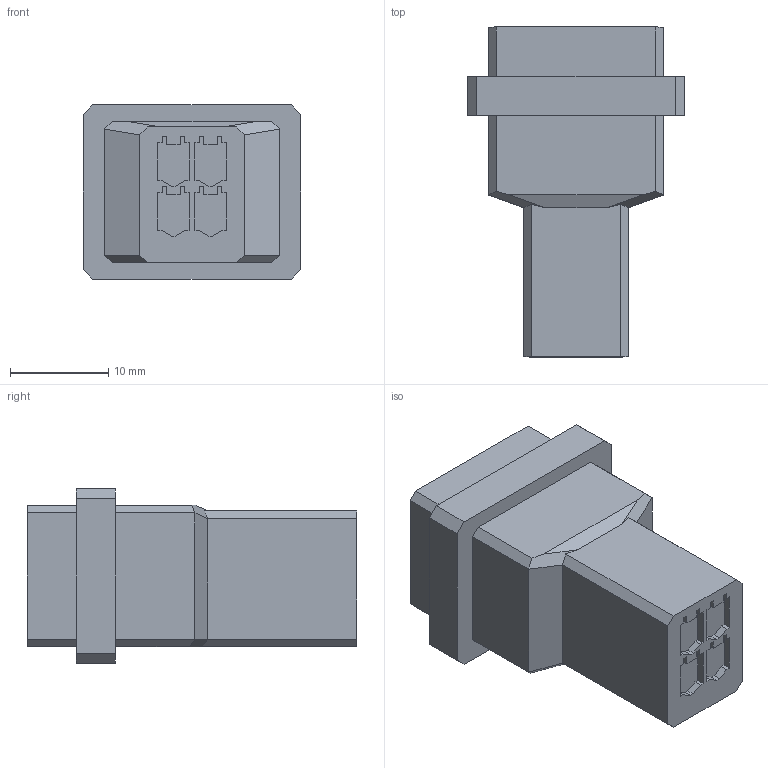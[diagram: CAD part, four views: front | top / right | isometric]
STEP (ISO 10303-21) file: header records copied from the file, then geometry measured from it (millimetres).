
FILE_DESCRIPTION (( 'STEP AP214' ), '1' );
FILE_NAME ('HC-3810-2x2SY-05 (3.81 邧齬 譫謂釱-HCTL).STEP', '2025-05-23T07:38:38', ( '' ), ( '' ), 'SwSTEP 2.0', 'SolidWorks 2022', '' );
FILE_SCHEMA (( 'AUTOMOTIVE_DESIGN' ));
Length unit declared in the file: millimetre
Products named in the file (1): HC-3810-2x2SY-05 (3.81 邧齬 譫謂釱-HCTL)
Bounding box: 22.21 x 33.6 x 17.78 mm (x, y, z)
Volume: 3940.6 mm3; surface area: 3701.4 mm2
Topology: 1 solids, 1 shells, 132 faces, 365 edges, 242 vertices
Faces by surface type: plane 132
Entity records: 4151 total; most frequent: CARTESIAN_POINT 740, ORIENTED_EDGE 730, DIRECTION 631, LINE 365, VECTOR 365, EDGE_CURVE 365, VERTEX_POINT 242, EDGE_LOOP 139
